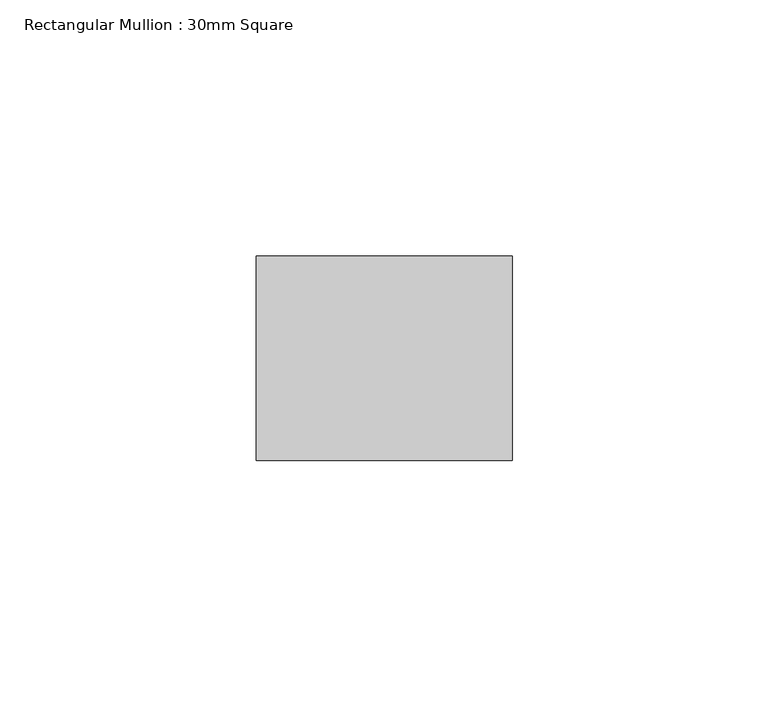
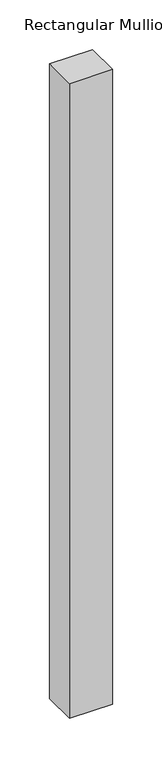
"""IFC4 building model written with IfcOpenShell, lengths in millimetres: member geometry, Rectangular Mullion : 30mm Square."""

from ifc_helpers import new_model, si_unit, frame, origin, place, context, project, spatial, polyline, outline, extrude, source, transform, mapped, element, save


def rectangular_mullion_30mm_square_f6e17314(model_context):
    return source(origin(), model_context, "Body", "SweptSolid", [
        extrude(outline(polyline([(25.0, 20.0), (25.0, -20.0), (-25.0, -20.0), (-25.0, 20.0), (25.0, 20.0)])), frame((0.0, 0.0, -780.0), z_axis=(0.0, 0.0, 1.0), x_axis=(1.0, 0.0, 0.0)), (0.0, 0.0, 1.0), 780.0),
    ])


if __name__ == "__main__":
    model = new_model("IFC4")
    model_context = context("Model", 3, world=origin())
    ifc_project = project(units=[si_unit("LENGTHUNIT", "METRE", prefix="MILLI")], contexts=[model_context])
    site = spatial("IfcSite", under=ifc_project)
    building = spatial("IfcBuilding", under=site)
    placement = place(None, origin())
    rectangular_mullion_30mm_square_shape = rectangular_mullion_30mm_square_f6e17314(model_context)
    element("IfcMember", 1, ObjectType="Rectangular Mullion : 30mm Square", at=placement, inside=building, context=model_context, shape_type="MappedRepresentation", body=[
        mapped(rectangular_mullion_30mm_square_shape, transform((0.0, 0.0, 0.0), x_axis=(1.0, 0.0, 0.0), y_axis=(0.0, 1.0, 0.0), z_axis=(0.0, 0.0, 1.0))),
    ])
    save(model, "model.ifc")
